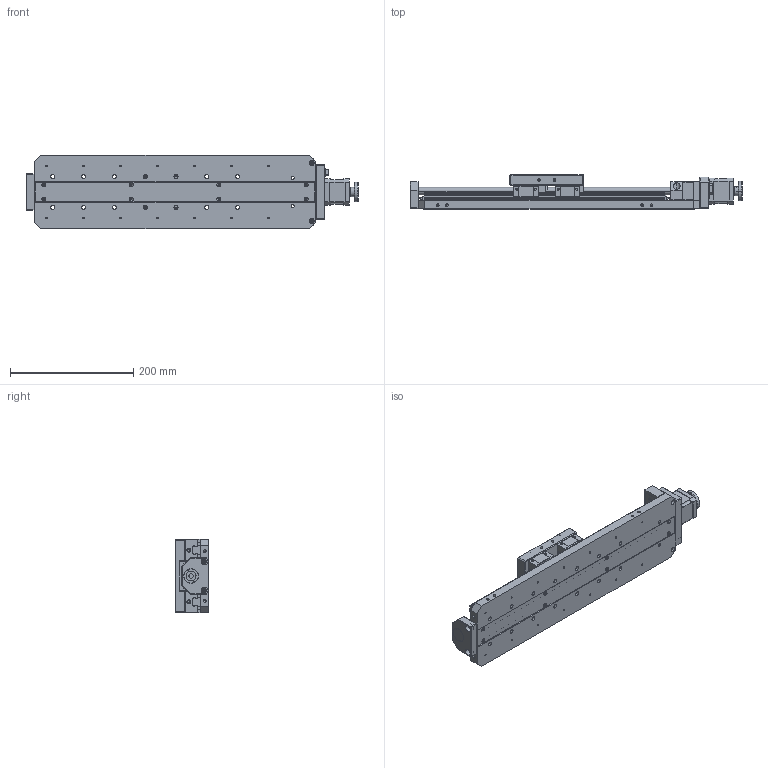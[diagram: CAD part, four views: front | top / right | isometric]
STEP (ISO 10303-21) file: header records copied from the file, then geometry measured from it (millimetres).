
FILE_DESCRIPTION (( 'STEP AP214' ), '1' );
FILE_NAME ('PT-GD140G(250).STEP', '2022-09-18T03:33:34', ( '' ), ( '' ), 'SwSTEP 2.0', 'SolidWorks 2017', '' );
FILE_SCHEMA (( 'AUTOMOTIVE_DESIGN' ));
Length unit declared in the file: millimetre
Products named in the file (1): PT-GD140G(250)
Bounding box: 539 x 55 x 120 mm (x, y, z)
Volume: 1342535.7 mm3; surface area: 406652.9 mm2
Topology: 32 solids, 32 shells, 2282 faces, 6131 edges, 3849 vertices
Faces by surface type: plane 942, cylinder 915, bspline 214, cone 195, torus 16
Entity records: 88869 total; most frequent: CARTESIAN_POINT 20719, ORIENTED_EDGE 11768, DIRECTION 11624, EDGE_CURVE 5884, AXIS2_PLACEMENT_3D 4238, VERTEX_POINT 3843, LINE 3148, VECTOR 3148
